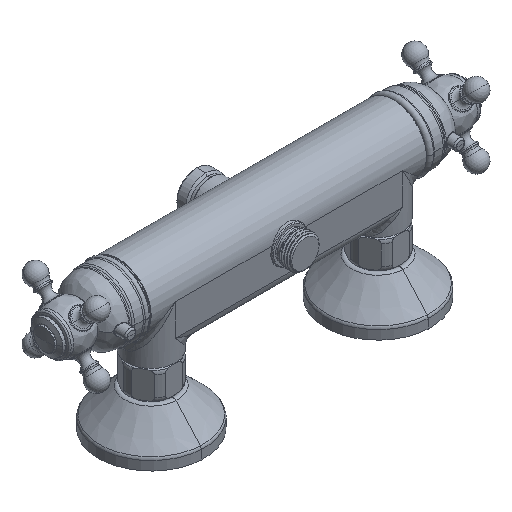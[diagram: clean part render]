
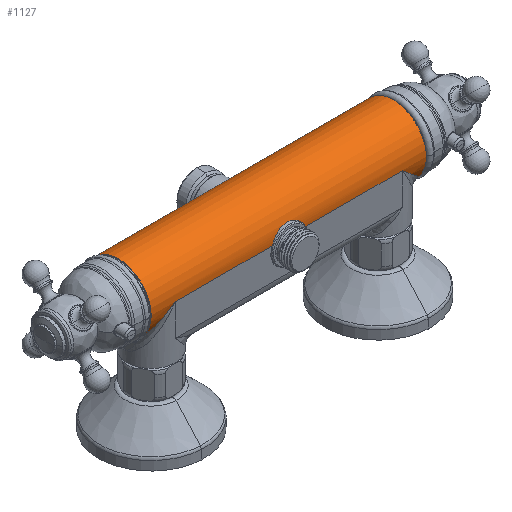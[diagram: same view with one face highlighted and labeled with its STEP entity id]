
A CAD part, isometric view. The second image highlights one B-rep face of the part: STEP entity #1127.
In plain terms, the highlighted cylindrical face has radius 21.75 mm (diameter 43.5 mm), a partial arc.
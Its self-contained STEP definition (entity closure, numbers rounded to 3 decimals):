
#1=CARTESIAN_POINT('',(91.,0.,0.));
#2=DIRECTION('',(1.,0.,0.));
#3=DIRECTION('',(0.,0.375,-0.927));
#4=AXIS2_PLACEMENT_3D('',#1,#2,#3);
#57=CARTESIAN_POINT('',(-91.,0.,0.));
#58=DIRECTION('',(1.,0.,0.));
#59=DIRECTION('',(0.,0.375,-0.927));
#60=AXIS2_PLACEMENT_3D('',#57,#58,#59);
#281=CARTESIAN_POINT('',(75.,-21.75,0.));
#282=CARTESIAN_POINT('',(75.937,-21.75,
-0.792));
#283=CARTESIAN_POINT('',(77.677,-21.663,-2.264));
#284=CARTESIAN_POINT('',(79.82,-21.386,-4.08));
#285=CARTESIAN_POINT('',(81.669,-21.021,-5.653));
#286=CARTESIAN_POINT('',(83.329,-20.587,-7.068));
#287=CARTESIAN_POINT('',(84.949,-20.058,-8.457));
#288=CARTESIAN_POINT('',(86.584,-19.404,-9.868));
#289=CARTESIAN_POINT('',(88.191,-18.629,-11.265));
#290=CARTESIAN_POINT('',(89.709,-17.751,-12.6));
#291=CARTESIAN_POINT('',(90.587,-17.152,-13.382));
#292=CARTESIAN_POINT('',(91.,-16.85,-13.753));
#294=DIRECTION('',(1.,0.,0.));
#295=VECTOR('',#294,64.038);
#296=CARTESIAN_POINT('',(10.962,-21.75,0.));
#297=LINE('',#296,#295);
#298=CARTESIAN_POINT('',(10.962,-21.75,0.));
#299=CARTESIAN_POINT('',(10.67,-21.75,0.711));
#300=CARTESIAN_POINT('',(9.959,-21.681,2.054));
#301=CARTESIAN_POINT('',(8.519,-21.43,3.844));
#302=CARTESIAN_POINT('',(6.73,-21.097,5.348));
#303=CARTESIAN_POINT('',(4.646,-20.767,6.489));
#304=CARTESIAN_POINT('',(2.346,-20.527,7.196));
#305=CARTESIAN_POINT('',(0.792,-20.47,7.35));
#306=CARTESIAN_POINT('',(0.,-20.47,7.35));
#308=CARTESIAN_POINT('',(0.,-20.47,7.35));
#309=CARTESIAN_POINT('',(-0.792,-20.47,7.35));
#310=CARTESIAN_POINT('',(-2.346,-20.527,7.196));
#311=CARTESIAN_POINT('',(-4.646,-20.767,6.489));
#312=CARTESIAN_POINT('',(-6.73,-21.097,5.348));
#313=CARTESIAN_POINT('',(-8.519,-21.429,3.845));
#314=CARTESIAN_POINT('',(-9.959,-21.681,2.055));
#315=CARTESIAN_POINT('',(-10.67,-21.75,0.711));
#316=CARTESIAN_POINT('',(-10.962,-21.75,0.));
#318=DIRECTION('',(1.,0.,0.));
#319=VECTOR('',#318,64.038);
#320=CARTESIAN_POINT('',(-75.,-21.75,0.));
#321=LINE('',#320,#319);
#322=CARTESIAN_POINT('',(-91.,-16.85,-13.753));
#323=CARTESIAN_POINT('',(-90.589,-17.151,
-13.384));
#324=CARTESIAN_POINT('',(-89.719,-17.744,
-12.609));
#325=CARTESIAN_POINT('',(-88.231,-18.606,
-11.3));
#326=CARTESIAN_POINT('',(-86.661,-19.37,
-9.934));
#327=CARTESIAN_POINT('',(-85.044,-20.023,
-8.538));
#328=CARTESIAN_POINT('',(-83.403,-20.566,
-7.132));
#329=CARTESIAN_POINT('',(-81.696,-21.016,
-5.675));
#330=CARTESIAN_POINT('',(-79.801,-21.39,
-4.065));
#331=CARTESIAN_POINT('',(-77.636,-21.666,
-2.229));
#332=CARTESIAN_POINT('',(-75.918,-21.75,
-0.776));
#333=CARTESIAN_POINT('',(-75.,-21.75,0.));
#335=CARTESIAN_POINT('',(-61.47,9.721,-19.457));
#336=CARTESIAN_POINT('',(-62.627,10.358,-19.138));
#337=CARTESIAN_POINT('',(-64.944,11.389,-18.549));
#338=CARTESIAN_POINT('',(-68.417,12.392,-17.882));
#339=CARTESIAN_POINT('',(-71.636,12.917,-17.5));
#340=CARTESIAN_POINT('',(-74.693,13.098,-17.364));
#341=CARTESIAN_POINT('',(-77.735,12.98,-17.453));
#342=CARTESIAN_POINT('',(-80.928,12.528,-17.785));
#343=CARTESIAN_POINT('',(-84.366,11.634,-18.395));
#344=CARTESIAN_POINT('',(-87.942,10.143,-19.273));
#345=CARTESIAN_POINT('',(-90.012,8.875,-19.872));
#346=CARTESIAN_POINT('',(-91.,8.151,-20.165));
#348=DIRECTION('',(1.,0.,0.));
#349=VECTOR('',#348,122.939);
#350=CARTESIAN_POINT('',(-61.47,9.721,-19.457));
#351=LINE('',#350,#349);
#352=CARTESIAN_POINT('',(91.,8.151,-20.165));
#353=CARTESIAN_POINT('',(90.012,8.875,-19.872));
#354=CARTESIAN_POINT('',(87.942,10.143,-19.273));
#355=CARTESIAN_POINT('',(84.366,11.634,-18.395));
#356=CARTESIAN_POINT('',(80.928,12.528,-17.785));
#357=CARTESIAN_POINT('',(77.735,12.98,-17.453));
#358=CARTESIAN_POINT('',(74.693,13.098,-17.364));
#359=CARTESIAN_POINT('',(71.636,12.917,-17.5));
#360=CARTESIAN_POINT('',(68.417,12.392,-17.882));
#361=CARTESIAN_POINT('',(64.944,11.389,-18.549));
#362=CARTESIAN_POINT('',(62.627,10.358,-19.138));
#363=CARTESIAN_POINT('',(61.47,9.721,-19.457));
#913=CARTESIAN_POINT('',(75.,-21.75,0.));
#914=VERTEX_POINT('',#913);
#915=CARTESIAN_POINT('',(-75.,-21.75,0.));
#916=VERTEX_POINT('',#915);
#917=CARTESIAN_POINT('',(-61.47,9.721,-19.457));
#918=CARTESIAN_POINT('',(61.47,9.721,-19.457));
#919=VERTEX_POINT('',#917);
#920=VERTEX_POINT('',#918);
#925=CARTESIAN_POINT('',(91.,8.151,-20.165));
#926=CARTESIAN_POINT('',(91.,-16.85,-13.753));
#927=VERTEX_POINT('',#925);
#928=VERTEX_POINT('',#926);
#939=CARTESIAN_POINT('',(-91.,8.151,-20.165));
#940=CARTESIAN_POINT('',(-91.,-16.85,-13.753));
#941=VERTEX_POINT('',#939);
#942=VERTEX_POINT('',#940);
#945=VERTEX_POINT('',#308);
#946=VERTEX_POINT('',#316);
#949=VERTEX_POINT('',#298);
#1100=CARTESIAN_POINT('',(-92.5,0.,0.));
#1101=DIRECTION('',(1.,0.,0.));
#1102=DIRECTION('',(0.,0.,1.));
#1103=AXIS2_PLACEMENT_3D('',#1100,#1101,#1102);
#1104=CYLINDRICAL_SURFACE('',#1103,21.75);
#1105=ORIENTED_EDGE('',*,*,#983,.T.);
#1107=ORIENTED_EDGE('',*,*,#1106,.F.);
#1109=ORIENTED_EDGE('',*,*,#1108,.F.);
#1111=ORIENTED_EDGE('',*,*,#1110,.T.);
#1113=ORIENTED_EDGE('',*,*,#1112,.T.);
#1115=ORIENTED_EDGE('',*,*,#1114,.F.);
#1117=ORIENTED_EDGE('',*,*,#1116,.F.);
#1118=ORIENTED_EDGE('',*,*,#1027,.F.);
#1120=ORIENTED_EDGE('',*,*,#1119,.F.);
#1122=ORIENTED_EDGE('',*,*,#1121,.T.);
#1124=ORIENTED_EDGE('',*,*,#1123,.F.);
#1125=EDGE_LOOP('',(#1105,#1107,#1109,#1111,#1113,#1115,#1117,#1118,#1120,#1122,
#1124));
#1126=FACE_OUTER_BOUND('',#1125,.F.);
#1127=ADVANCED_FACE('',(#1126),#1104,.T.);
#5=CIRCLE('',#4,21.75);
#61=CIRCLE('',#60,21.75);
#293=B_SPLINE_CURVE_WITH_KNOTS('',3,(#281,#282,#283,#284,#285,#286,#287,#288,
#289,#290,#291,#292),.UNSPECIFIED.,.F.,.F.,(4,1,1,1,1,1,1,1,1,4),(0.,
0.111,0.222,0.333,0.444,
0.556,0.667,0.778,0.889,1.),
.UNSPECIFIED.);
#307=B_SPLINE_CURVE_WITH_KNOTS('',3,(#298,#299,#300,#301,#302,#303,#304,#305,
#306),.UNSPECIFIED.,.F.,.F.,(4,1,1,1,1,1,4),(0.,0.167,
0.333,0.5,0.667,0.833,1.),
.UNSPECIFIED.);
#317=B_SPLINE_CURVE_WITH_KNOTS('',3,(#308,#309,#310,#311,#312,#313,#314,#315,
#316),.UNSPECIFIED.,.F.,.F.,(4,1,1,1,1,1,4),(0.,0.167,
0.333,0.5,0.667,0.833,1.),
.UNSPECIFIED.);
#334=B_SPLINE_CURVE_WITH_KNOTS('',3,(#322,#323,#324,#325,#326,#327,#328,#329,
#330,#331,#332,#333),.UNSPECIFIED.,.F.,.F.,(4,1,1,1,1,1,1,1,1,4),(0.,
0.111,0.222,0.333,0.444,
0.556,0.667,0.778,0.889,1.),
.UNSPECIFIED.);
#347=B_SPLINE_CURVE_WITH_KNOTS('',3,(#335,#336,#337,#338,#339,#340,#341,#342,
#343,#344,#345,#346),.UNSPECIFIED.,.F.,.F.,(4,1,1,1,1,1,1,1,1,4),(0.,
0.111,0.222,0.333,0.444,
0.556,0.667,0.778,0.889,1.),
.UNSPECIFIED.);
#364=B_SPLINE_CURVE_WITH_KNOTS('',3,(#352,#353,#354,#355,#356,#357,#358,#359,
#360,#361,#362,#363),.UNSPECIFIED.,.F.,.F.,(4,1,1,1,1,1,1,1,1,4),(0.,
0.111,0.222,0.333,0.444,
0.556,0.667,0.778,0.889,1.),
.UNSPECIFIED.);
#983=EDGE_CURVE('',#927,#928,#5,.T.);
#1027=EDGE_CURVE('',#941,#942,#61,.T.);
#1106=EDGE_CURVE('',#914,#928,#293,.T.);
#1108=EDGE_CURVE('',#949,#914,#297,.T.);
#1110=EDGE_CURVE('',#949,#945,#307,.T.);
#1112=EDGE_CURVE('',#945,#946,#317,.T.);
#1114=EDGE_CURVE('',#916,#946,#321,.T.);
#1116=EDGE_CURVE('',#942,#916,#334,.T.);
#1119=EDGE_CURVE('',#919,#941,#347,.T.);
#1121=EDGE_CURVE('',#919,#920,#351,.T.);
#1123=EDGE_CURVE('',#927,#920,#364,.T.);
